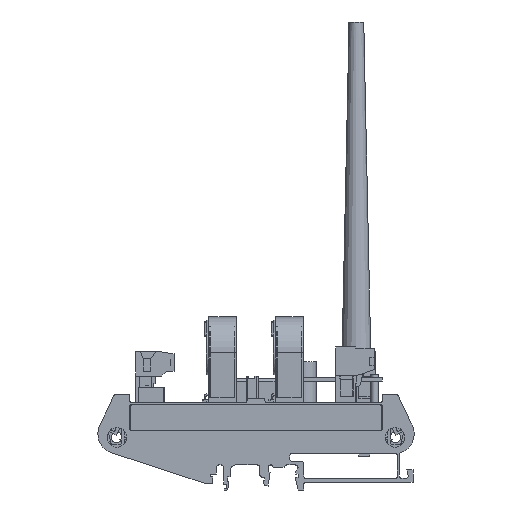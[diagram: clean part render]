
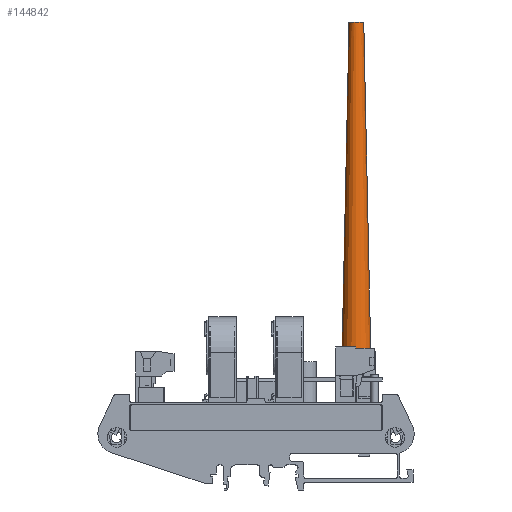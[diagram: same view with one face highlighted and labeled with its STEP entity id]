
A CAD part, left-side view. The second image highlights one B-rep face of the part: STEP entity #144842.
In plain terms, the highlighted conical face has half-angle 1.236 degrees and reference radius 6 mm.
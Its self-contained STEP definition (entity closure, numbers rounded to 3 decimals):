
#144842 = ADVANCED_FACE('',(#144843),#144856,.T.);
#144843 = FACE_BOUND('',#144844,.T.);
#144844 = EDGE_LOOP('',(#144845,#144879,#144902,#144929));
#144845 = ORIENTED_EDGE('',*,*,#144846,.F.);
#144846 = EDGE_CURVE('',#144847,#144847,#144849,.T.);
#144847 = VERTEX_POINT('',#144848);
#144848 = CARTESIAN_POINT('',(3.,0.,139.));
#144849 = SURFACE_CURVE('',#144850,(#144855,#144867),.PCURVE_S1.);
#144850 = CIRCLE('',#144851,3.);
#144851 = AXIS2_PLACEMENT_3D('',#144852,#144853,#144854);
#144852 = CARTESIAN_POINT('',(0.,0.,139.));
#144853 = DIRECTION('',(0.,0.,1.));
#144854 = DIRECTION('',(1.,0.,-0.));
#144855 = PCURVE('',#144856,#144861);
#144856 = CONICAL_SURFACE('',#144857,6.,0.022);
#144857 = AXIS2_PLACEMENT_3D('',#144858,#144859,#144860);
#144858 = CARTESIAN_POINT('',(0.,0.,0.));
#144859 = DIRECTION('',(-0.,-0.,-1.));
#144860 = DIRECTION('',(1.,0.,-0.));
#144861 = DEFINITIONAL_REPRESENTATION('',(#144862),#144866);
#144862 = LINE('',#144863,#144864);
#144863 = CARTESIAN_POINT('',(-0.,-139.));
#144864 = VECTOR('',#144865,1.);
#144865 = DIRECTION('',(-1.,-0.));
#144866 = ( GEOMETRIC_REPRESENTATION_CONTEXT(2) 
PARAMETRIC_REPRESENTATION_CONTEXT() REPRESENTATION_CONTEXT('2D SPACE',''
  ) );
#144867 = PCURVE('',#144868,#144873);
#144868 = PLANE('',#144869);
#144869 = AXIS2_PLACEMENT_3D('',#144870,#144871,#144872);
#144870 = CARTESIAN_POINT('',(0.,0.,139.));
#144871 = DIRECTION('',(0.,0.,1.));
#144872 = DIRECTION('',(1.,0.,-0.));
#144873 = DEFINITIONAL_REPRESENTATION('',(#144874),#144878);
#144874 = CIRCLE('',#144875,3.);
#144875 = AXIS2_PLACEMENT_2D('',#144876,#144877);
#144876 = CARTESIAN_POINT('',(0.,0.));
#144877 = DIRECTION('',(1.,0.));
#144878 = ( GEOMETRIC_REPRESENTATION_CONTEXT(2) 
PARAMETRIC_REPRESENTATION_CONTEXT() REPRESENTATION_CONTEXT('2D SPACE',''
  ) );
#144879 = ORIENTED_EDGE('',*,*,#144880,.F.);
#144880 = EDGE_CURVE('',#144881,#144847,#144883,.T.);
#144881 = VERTEX_POINT('',#144882);
#144882 = CARTESIAN_POINT('',(6.,0.,0.));
#144883 = SEAM_CURVE('',#144884,(#144888,#144895),.PCURVE_S1.);
#144884 = LINE('',#144885,#144886);
#144885 = CARTESIAN_POINT('',(6.,0.,0.));
#144886 = VECTOR('',#144887,1.);
#144887 = DIRECTION('',(-0.022,0.,1.));
#144888 = PCURVE('',#144856,#144889);
#144889 = DEFINITIONAL_REPRESENTATION('',(#144890),#144894);
#144890 = LINE('',#144891,#144892);
#144891 = CARTESIAN_POINT('',(-6.283,0.));
#144892 = VECTOR('',#144893,1.);
#144893 = DIRECTION('',(-0.,-1.));
#144894 = ( GEOMETRIC_REPRESENTATION_CONTEXT(2) 
PARAMETRIC_REPRESENTATION_CONTEXT() REPRESENTATION_CONTEXT('2D SPACE',''
  ) );
#144895 = PCURVE('',#144856,#144896);
#144896 = DEFINITIONAL_REPRESENTATION('',(#144897),#144901);
#144897 = LINE('',#144898,#144899);
#144898 = CARTESIAN_POINT('',(0.,-0.));
#144899 = VECTOR('',#144900,1.);
#144900 = DIRECTION('',(-0.,-1.));
#144901 = ( GEOMETRIC_REPRESENTATION_CONTEXT(2) 
PARAMETRIC_REPRESENTATION_CONTEXT() REPRESENTATION_CONTEXT('2D SPACE',''
  ) );
#144902 = ORIENTED_EDGE('',*,*,#144903,.T.);
#144903 = EDGE_CURVE('',#144881,#144881,#144904,.T.);
#144904 = SURFACE_CURVE('',#144905,(#144910,#144917),.PCURVE_S1.);
#144905 = CIRCLE('',#144906,6.);
#144906 = AXIS2_PLACEMENT_3D('',#144907,#144908,#144909);
#144907 = CARTESIAN_POINT('',(0.,0.,0.));
#144908 = DIRECTION('',(0.,0.,1.));
#144909 = DIRECTION('',(1.,0.,-0.));
#144910 = PCURVE('',#144856,#144911);
#144911 = DEFINITIONAL_REPRESENTATION('',(#144912),#144916);
#144912 = LINE('',#144913,#144914);
#144913 = CARTESIAN_POINT('',(-0.,-0.));
#144914 = VECTOR('',#144915,1.);
#144915 = DIRECTION('',(-1.,-0.));
#144916 = ( GEOMETRIC_REPRESENTATION_CONTEXT(2) 
PARAMETRIC_REPRESENTATION_CONTEXT() REPRESENTATION_CONTEXT('2D SPACE',''
  ) );
#144917 = PCURVE('',#144918,#144923);
#144918 = PLANE('',#144919);
#144919 = AXIS2_PLACEMENT_3D('',#144920,#144921,#144922);
#144920 = CARTESIAN_POINT('',(0.,0.,0.));
#144921 = DIRECTION('',(0.,0.,1.));
#144922 = DIRECTION('',(1.,0.,-0.));
#144923 = DEFINITIONAL_REPRESENTATION('',(#144924),#144928);
#144924 = CIRCLE('',#144925,6.);
#144925 = AXIS2_PLACEMENT_2D('',#144926,#144927);
#144926 = CARTESIAN_POINT('',(0.,0.));
#144927 = DIRECTION('',(1.,0.));
#144928 = ( GEOMETRIC_REPRESENTATION_CONTEXT(2) 
PARAMETRIC_REPRESENTATION_CONTEXT() REPRESENTATION_CONTEXT('2D SPACE',''
  ) );
#144929 = ORIENTED_EDGE('',*,*,#144880,.T.);
